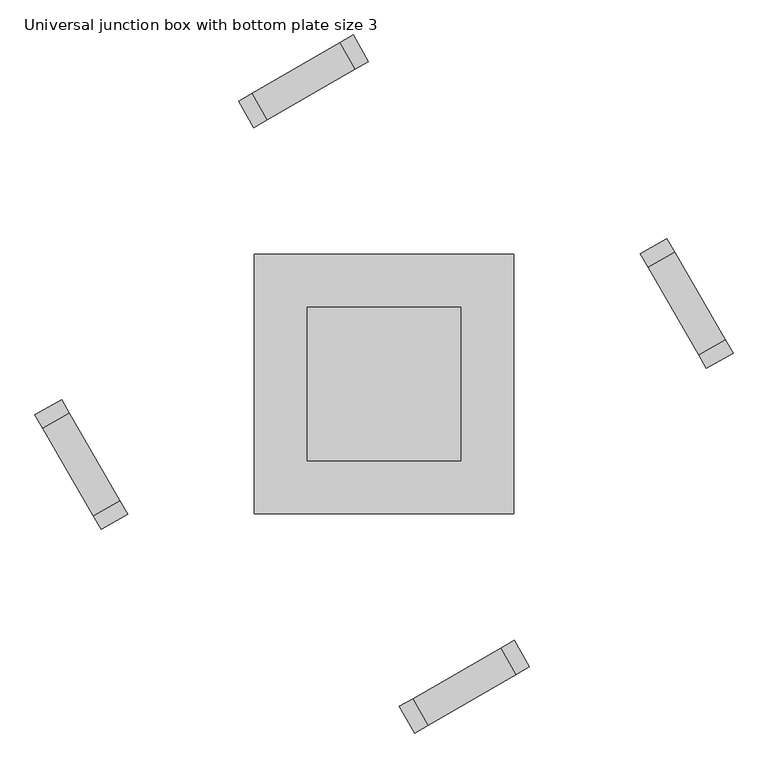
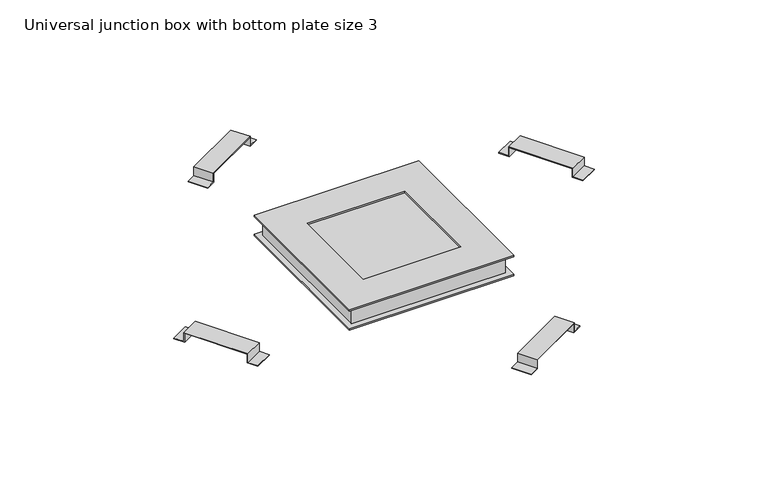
"""IFC4 building model written with IfcOpenShell, lengths in millimetres: cable carrier fitting geometry, Electrical-Installations_Hager_Universal-Junction-Box-With-Bottom-Plate-Size-3-Angled : Universal junction box with bottom plate size 3."""

from ifc_helpers import new_model, si_unit, frame, origin, place, context, project, spatial, polyline, outline, extrude, faceted_brep, source, transform, mapped, element, save


def universal_junction_box_with_bottom_plate_size_3_c41442bd(model_context):
    return source(origin(), model_context, "Body", "SolidModel", [
        extrude(outline(polyline([(0.0, 0.0), (32.0, 0.0), (32.0, -28.0), (222.0000001, -28.0), (222.0000001, 0.0), (254.0, 0.0), (254.0, -2.0), (224.0, -2.0), (224.0, -30.0), (30.0, -30.0), (30.0, -2.0), (0.0, -2.0), (0.0, 0.0)])), frame((-249.7352263, 492.1444444, -14.0), z_axis=(-0.49999999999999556, 0.8660254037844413, 0.0), x_axis=(0.8660254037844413, 0.49999999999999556, 0.0)), (0.0, 0.0, 1.0), 59.0),
        extrude(outline(polyline([(0.0, 0.0), (0.0, -2.0), (-30.0, -2.0), (-30.0, -30.0), (-224.0, -30.0), (-224.0, -2.0), (-254.0, -2.0), (-254.0, 0.0), (-222.0000001, 0.0), (-222.0000001, -28.0), (-32.0, -28.0), (-32.0, 0.0), (0.0, 0.0)])), frame((-543.2399432, -279.2352263, -14.0), z_axis=(0.8660254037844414, 0.4999999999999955, 0.0), x_axis=(0.4999999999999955, -0.8660254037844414, 0.0)), (0.0, 0.0, 1.0), 59.0),
        extrude(outline(polyline([(0.0, 0.0), (32.0, 0.0), (32.0, -28.0), (222.0000001, -28.0), (222.0000001, 0.0), (254.0, 0.0), (254.0, -2.0), (224.0, -2.0), (224.0, -30.0), (30.0, -30.0), (30.0, -2.0), (0.0, -2.0), (0.0, 0.0)])), frame((59.2647737, -670.2399432, -14.0), z_axis=(-0.4999999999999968, 0.8660254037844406, 0.0), x_axis=(0.8660254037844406, 0.4999999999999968, 0.0)), (0.0, 0.0, 1.0), 59.0),
        extrude(outline(polyline([(0.0, 0.0), (0.0, -2.0), (-30.0, -2.0), (-30.0, -30.0), (-224.0, -30.0), (-224.0, -2.0), (-254.0, -2.0), (-254.0, 0.0), (-222.0000001, 0.0), (-222.0000001, -28.0), (-32.0, -28.0), (-32.0, 0.0), (0.0, 0.0)])), frame((619.1444444, 29.7647737, -14.0), z_axis=(0.8660254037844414, 0.4999999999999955, 0.0), x_axis=(0.4999999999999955, -0.8660254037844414, 0.0)), (0.0, 0.0, 1.0), 59.0),
        faceted_brep([(-249.0, -249.0, 47.0), (249.0, -249.0, 47.0), (249.0, 249.0, 47.0), (-249.0, 249.0, 47.0), (-147.0, 147.0, 47.0), (147.0, 147.0, 47.0), (147.0, -147.0, 47.0), (-147.0, -147.0, 47.0), (-249.0, -249.0, 42.0), (-249.0, 249.0, 42.0), (249.0, 249.0, 42.0), (249.0, -249.0, 42.0), (227.0, 227.0, 42.0), (-227.0, 227.0, 42.0), (-227.0, -227.0, 42.0), (227.0, -227.0, 42.0), (-147.0, 147.0, 42.7820613), (147.0, 147.0, 42.7820613), (147.0, -147.0, 42.7820613), (-147.0, -147.0, 42.7820613), (227.0, 227.0, 42.7820613), (227.0, -227.0, 42.7820613), (-227.0, -227.0, 42.7820613), (-227.0, 227.0, 42.7820613)], [[[0, 1, 2, 3], [4, 5, 6, 7]], [[8, 9, 10, 11], [12, 13, 14, 15]], [[1, 0, 8, 11]], [[2, 1, 11, 10]], [[3, 2, 10, 9]], [[0, 3, 9, 8]], [[5, 4, 16, 17]], [[6, 5, 17, 18]], [[7, 6, 18, 19]], [[4, 7, 19, 16]], [[20, 21, 22, 23], [17, 16, 19, 18]], [[20, 23, 13, 12]], [[23, 22, 14, 13]], [[22, 21, 15, 14]], [[21, 20, 12, 15]]]),
        extrude(outline(polyline([(249.0, 249.0), (249.0, -249.0), (-249.0, -249.0), (-249.0, 249.0), (249.0, 249.0)])), frame((0.0, 0.0, -19.0), z_axis=(0.0, 0.0, 1.0), x_axis=(1.0, 0.0, 0.0)), (0.0, 0.0, 1.0), 5.0),
        faceted_brep([(-233.0, 233.0, 42.0), (-233.0, -233.0, 42.0), (233.0, -233.0, 42.0), (233.0, 233.0, 42.0), (-227.0, 227.0, 42.0), (227.0, 227.0, 42.0), (227.0, -227.0, 42.0), (-227.0, -227.0, 42.0), (-233.0, 233.0, -14.0), (233.0, 233.0, -14.0), (233.0, -233.0, -14.0), (-233.0, -233.0, -14.0), (227.0, 227.0, -6.1362798), (-227.0, 227.0, -6.1362798), (-227.0, -227.0, -6.1362798), (227.0, -227.0, -6.1362798)], [[[0, 1, 2, 3], [4, 5, 6, 7]], [[8, 9, 10, 11]], [[1, 0, 8, 11]], [[2, 1, 11, 10]], [[3, 2, 10, 9]], [[0, 3, 9, 8]], [[12, 13, 14, 15]], [[13, 12, 5, 4]], [[14, 13, 4, 7]], [[15, 14, 7, 6]], [[12, 15, 6, 5]]]),
    ])


if __name__ == "__main__":
    model = new_model("IFC4")
    model_context = context("Model", 3, world=origin())
    ifc_project = project(units=[si_unit("LENGTHUNIT", "METRE", prefix="MILLI")], contexts=[model_context])
    site = spatial("IfcSite", under=ifc_project)
    building = spatial("IfcBuilding", under=site)
    placement = place(None, origin())
    universal_junction_box_with_bottom_plate_size_3_shape = universal_junction_box_with_bottom_plate_size_3_c41442bd(model_context)
    element("IfcCableCarrierFitting", 1, ObjectType="Electrical-Installations_Hager_Universal-Junction-Box-With-Bottom-Plate-Size-3-Angled : Universal junction box with bottom plate size 3", at=placement, inside=building, context=model_context, shape_type="MappedRepresentation", body=[
        mapped(universal_junction_box_with_bottom_plate_size_3_shape, transform((0.0, 0.0, 0.0), x_axis=(1.0, 0.0, 0.0), y_axis=(0.0, 1.0, 0.0), z_axis=(0.0, 0.0, 1.0))),
    ])
    save(model, "model.ifc")
